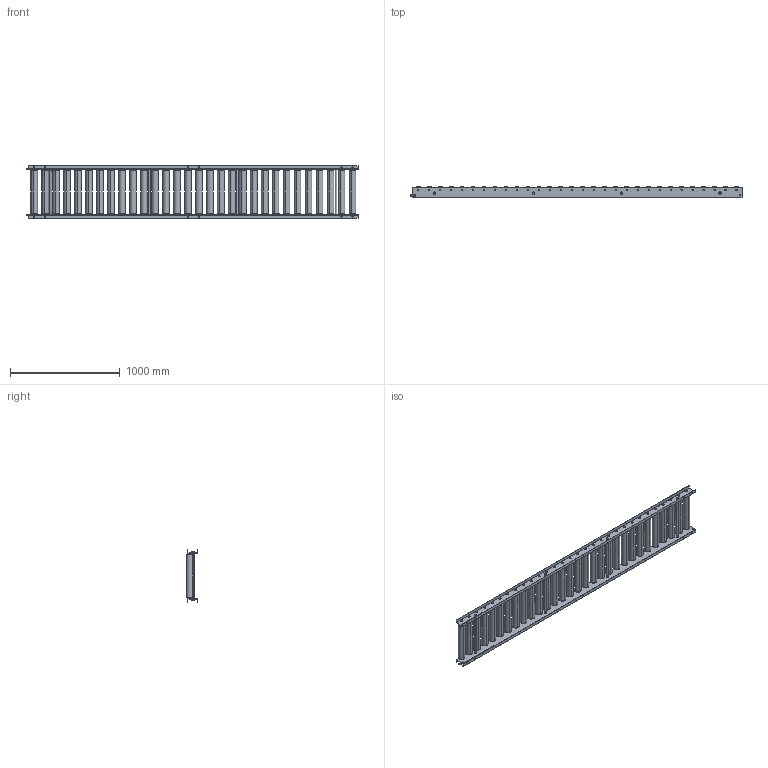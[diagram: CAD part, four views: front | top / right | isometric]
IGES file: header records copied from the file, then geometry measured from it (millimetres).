
Start section: SolidWorks IGES file using analytic representation for surfaces
Global section: file name: C:\Users\0656\Desktop\変換ツール\iges変換\RS-6015J.igs; native system: SolidWorks 2023; preprocessor: SolidWorks 2023; author: 0656; date: 240226.152752; units: millimetre
Bounding box: 3025 x 101.71 x 475 mm (x, y, z)
Surface area: 5326872.2 mm2 (no closed solid volume)
Topology: 0 solids, 0 shells, 1160 faces, 23688 edges, 23688 vertices
Faces by surface type: revolution 610, bspline 550
